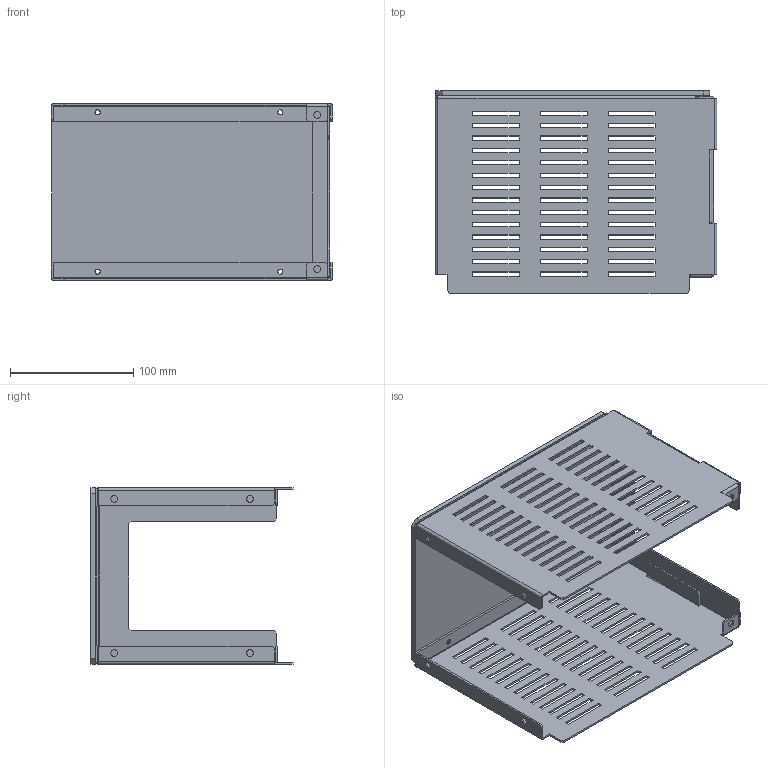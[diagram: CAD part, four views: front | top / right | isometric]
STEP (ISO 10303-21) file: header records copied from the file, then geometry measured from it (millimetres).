
FILE_DESCRIPTION(('CAx-IF Rec.Pracs.---Model Styling and Organization---1.2---2011-12-15','CAx-IF Rec.Pracs.---Geometric and Assembly Validation Properties---4.1---2014-06-16','CAx-IF Rec.Pracs.---PMI Polyline Presentation---2.0---2013-05-24'),'2;1');
FILE_NAME('R5M2W3MRB4.stp','2021-05-05T13:08:23+03:00',(''),(''),'STEP Interface 4.4 by CT CoreTechnologie','3D_Evolution4.4 by CT CoreTechnologie','');
FILE_SCHEMA(('AUTOMOTIVE_DESIGN { 1 0 10303 214 1 1 1 1 }'));
Length unit declared in the file: millimetre
Products named in the file (5): R5M2W3MRB4; RB.1462.00.00.0_-01; RB.1461.00.00.0_-01; RB.1469.00.00.0_-00; RB.1469.00.00.0_-01
Assembly tree (4 placements, depth 2):
  R5M2W3MRB4
    RB.1462.00.00.0_-01
    RB.1461.00.00.0_-01
    RB.1469.00.00.0_-00
    RB.1469.00.00.0_-01
Bounding box: 228 x 164 x 143 mm (x, y, z)
Surface area: 249376.2 mm2 (no closed solid volume)
Topology: 0 solids, 4 shells, 544 faces, 1552 edges, 1016 vertices
Faces by surface type: plane 488, cylinder 54, bspline 2
Entity records: 18067 total; most frequent: CARTESIAN_POINT 3220, ORIENTED_EDGE 3104, DIRECTION 2751, EDGE_CURVE 1552, VECTOR 1441, LINE 1441, VERTEX_POINT 1016, EDGE_LOOP 740
